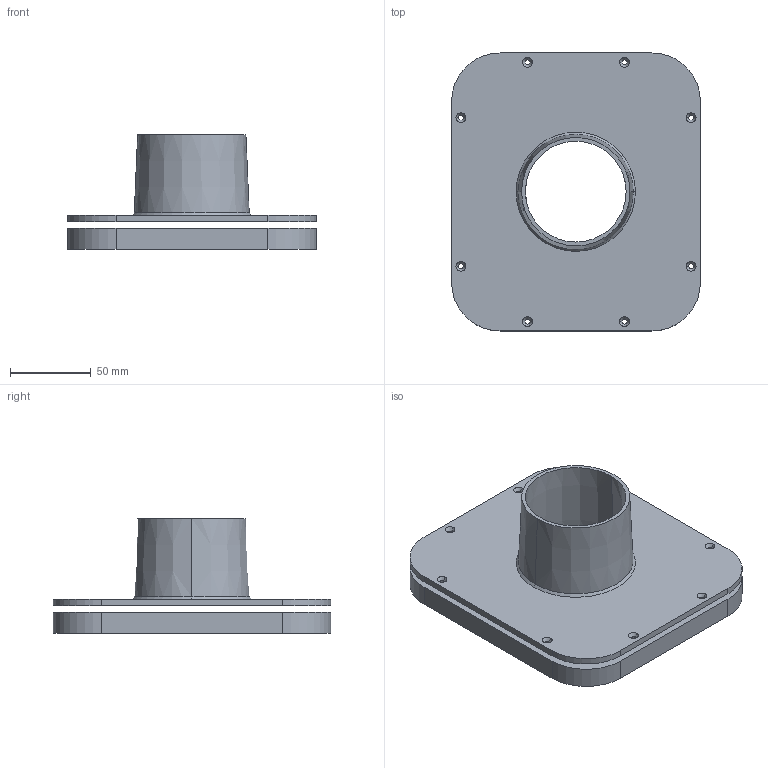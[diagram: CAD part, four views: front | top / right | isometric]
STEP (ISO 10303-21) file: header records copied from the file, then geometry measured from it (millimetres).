
FILE_DESCRIPTION (( 'STEP AP203' ), '1' );
FILE_NAME ('platine_alveoONE.STEP', '2022-04-01T13:35:24', ( '' ), ( '' ), 'SwSTEP 2.0', 'SolidWorks 2019', '' );
FILE_SCHEMA (( 'CONFIG_CONTROL_DESIGN' ));
Length unit declared in the file: millimetre
Products named in the file (1): platine_alveoONE
Bounding box: 154 x 172 x 71 mm (x, y, z)
Volume: 181505.1 mm3; surface area: 95850.7 mm2
Topology: 2 solids, 2 shells, 139 faces, 360 edges, 234 vertices
Faces by surface type: plane 73, cylinder 44, cone 22
Entity records: 4391 total; most frequent: DIRECTION 754, CARTESIAN_POINT 734, ORIENTED_EDGE 720, EDGE_CURVE 360, AXIS2_PLACEMENT_3D 254, LINE 246, VECTOR 246, VERTEX_POINT 234
